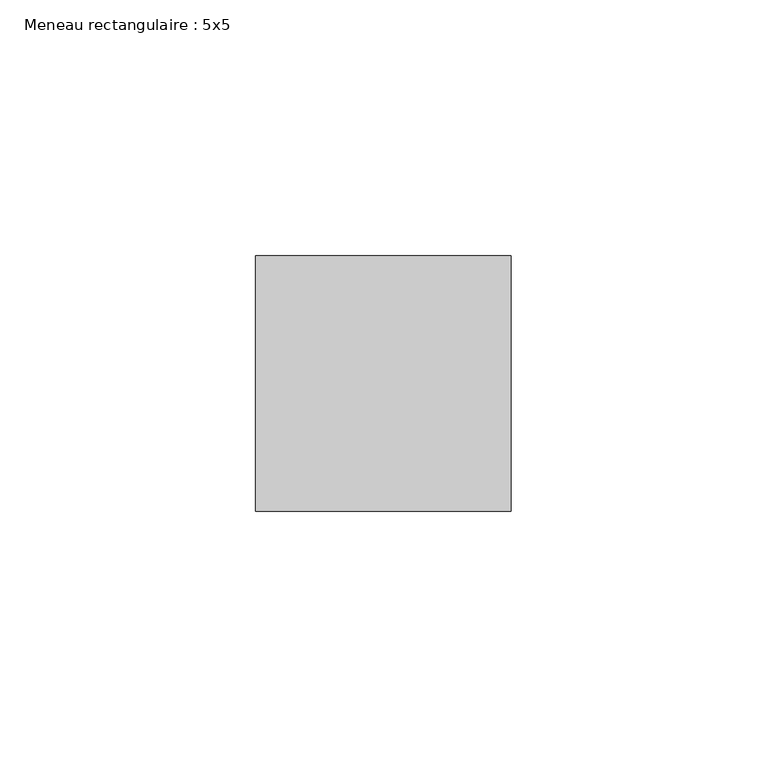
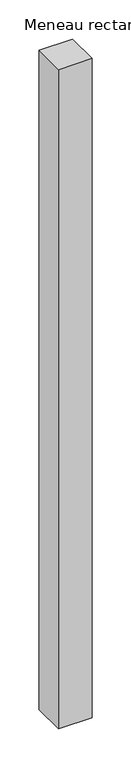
"""IFC4 building model written with IfcOpenShell, lengths in millimetres: member geometry, Meneau rectangulaire : 5x5."""

import ifcopenshell
import ifcopenshell.guid

model = None  # the IFC model being written
_history = None  # IfcOwnerHistory: only IFC2X3 demands one
_inside = {}  # id of a spatial element -> (the spatial element, [elements in it])
_under = {}  # id of a project, library or spatial element -> (it, [spatial elements below it])
_declared = {}  # id of a project -> (the project, [libraries it declares])
_typed = {}  # id of a type object -> (the type object, [elements of that type])
_made_of = {}  # id of a material, layer set ... -> (it, [elements and type objects made of it])


def new_model(schema):
    """Start an empty IFC model of exactly this schema.

    Asked for "IFC4X3", IfcOpenShell would pick the latest addendum, in which some entities
    have other attributes; the version numbers below select the first issue.
    IFC2X3 requires an IfcOwnerHistory on every rooted entity: one is made here for all.
    """
    global model, _history
    if schema == "IFC4X3":
        model = ifcopenshell.file(schema_version=(4, 3, 0, 0))
    else:
        model = ifcopenshell.file(schema=schema)
    _inside.clear()
    _under.clear()
    _declared.clear()
    _typed.clear()
    _made_of.clear()
    _history = None
    if model.schema == "IFC2X3":
        org = make("IfcOrganization", Name="unknown")
        user = make(
            "IfcPersonAndOrganization",
            ThePerson=make("IfcPerson", FamilyName="unknown"),
            TheOrganization=org,
        )
        app = make(
            "IfcApplication",
            ApplicationDeveloper=org,
            Version="unknown",
            ApplicationFullName="unknown",
            ApplicationIdentifier="unknown",
        )
        _history = make(
            "IfcOwnerHistory",
            OwningUser=user,
            OwningApplication=app,
            ChangeAction="ADDED",
            CreationDate=0,
        )
    return model


def make(cls, **values):
    """One entity of the class cls with the attributes given. An attribute that is None is left unset."""
    return model.create_entity(
        cls, **{name: value for name, value in values.items() if value is not None}
    )


def rooted(cls, **values):
    """An entity with a GlobalId (a new one), such as an element, a storey or a relation."""
    return make(cls, GlobalId=ifcopenshell.guid.new(), OwnerHistory=_history, **values)


def si_unit(unit_type, name, prefix=None):
    """IfcSIUnit, for example si_unit("LENGTHUNIT", "METRE", prefix="MILLI")."""
    return make("IfcSIUnit", UnitType=unit_type, Prefix=prefix, Name=name)


def assignment(units):
    """IfcUnitAssignment: the units of a project."""
    return None if units is None else make("IfcUnitAssignment", Units=units)


def point(xyz):
    """IfcCartesianPoint."""
    return None if xyz is None else make("IfcCartesianPoint", Coordinates=xyz)


def direction(xyz):
    """IfcDirection."""
    return None if xyz is None else make("IfcDirection", DirectionRatios=xyz)


def frame(location, z_axis=None, x_axis=None):
    """IfcAxis2Placement3D, a coordinate frame: its origin and axes. An axis left out is left unset."""
    return make(
        "IfcAxis2Placement3D",
        Location=point(location),
        Axis=direction(z_axis),
        RefDirection=direction(x_axis),
    )


def origin():
    """The frame at (0, 0, 0) with its axes left unset."""
    return frame((0.0, 0.0, 0.0))


def place(relative_to, where):
    """IfcLocalPlacement: puts the frame where relative to a parent placement (None: the world)."""
    return make(
        "IfcLocalPlacement", PlacementRelTo=relative_to, RelativePlacement=where
    )


def context(
    kind, dimensions, precision=None, world=None, true_north=None, identifier=None
):
    """IfcGeometricRepresentationContext, for example the 3D "Model" context."""
    return make(
        "IfcGeometricRepresentationContext",
        ContextIdentifier=identifier,
        ContextType=kind,
        CoordinateSpaceDimension=dimensions,
        Precision=precision,
        WorldCoordinateSystem=world,
        TrueNorth=true_north,
    )


def project(units=None, contexts=None):
    """IfcProject with its units and contexts."""
    return rooted(
        "IfcProject",
        Name="project",
        RepresentationContexts=contexts,
        UnitsInContext=assignment(units),
    )


def spatial(cls, under=None, at=None, **own):
    """A site, building, storey or space (cls), placed at a placement, below another one or the project."""
    s = rooted(cls, ObjectPlacement=at, **own)
    if under is not None:
        _under.setdefault(under.id(), (under, []))[1].append(s)
    return s


def polyline(points):
    """IfcPolyline through the points."""
    return make("IfcPolyline", Points=[point(p) for p in points])


def outline(outer, holes=None, kind="AREA"):
    """IfcArbitraryClosedProfileDef: a profile drawn as a closed curve; with holes, ...WithVoids."""
    if holes is None:
        return make("IfcArbitraryClosedProfileDef", ProfileType=kind, OuterCurve=outer)
    return make(
        "IfcArbitraryProfileDefWithVoids",
        ProfileType=kind,
        OuterCurve=outer,
        InnerCurves=holes,
    )


def extrude(swept, where, along, depth):
    """IfcExtrudedAreaSolid: the profile swept, set in the frame where, extruded along a direction by depth."""
    return make(
        "IfcExtrudedAreaSolid",
        SweptArea=swept,
        Position=where,
        ExtrudedDirection=direction(along),
        Depth=depth,
    )


def shape(context_of_items, identifier, shape_type, items):
    """IfcShapeRepresentation: the items that make up one representation, for example the "Body"."""
    return make(
        "IfcShapeRepresentation",
        ContextOfItems=context_of_items,
        RepresentationIdentifier=identifier,
        RepresentationType=shape_type,
        Items=items,
    )


def source(mapping_origin, context_of_items, identifier, shape_type, items):
    """IfcRepresentationMap: a shape defined once, which mapped items show again and again."""
    return make(
        "IfcRepresentationMap",
        MappingOrigin=mapping_origin,
        MappedRepresentation=shape(context_of_items, identifier, shape_type, items),
    )


def transform(
    local_origin,
    x_axis=None,
    y_axis=None,
    z_axis=None,
    scale=None,
    scale2=None,
    scale3=None,
    uniform=True,
):
    """IfcCartesianTransformationOperator3D, or its non-uniform kind. x_axis, y_axis, z_axis: its Axis1, 2, 3."""
    if uniform:
        return make(
            "IfcCartesianTransformationOperator3D",
            Axis1=direction(x_axis),
            Axis2=direction(y_axis),
            LocalOrigin=point(local_origin),
            Scale=scale,
            Axis3=direction(z_axis),
        )
    return make(
        "IfcCartesianTransformationOperator3DnonUniform",
        Axis1=direction(x_axis),
        Axis2=direction(y_axis),
        LocalOrigin=point(local_origin),
        Scale=scale,
        Axis3=direction(z_axis),
        Scale2=scale2,
        Scale3=scale3,
    )


def mapped(mapping_source, mapping_target):
    """IfcMappedItem: shows the shape of a source again, moved by a transform."""
    return make(
        "IfcMappedItem", MappingSource=mapping_source, MappingTarget=mapping_target
    )


def made_of(thing, what):
    """Note that an element or type object is made of a material, layer set ...; save() writes the relation."""
    if what is not None:
        _made_of.setdefault(what.id(), (what, []))[1].append(thing)
    return thing


def element(
    cls,
    number,
    at=None,
    inside=None,
    cuts=None,
    type_object=None,
    material=None,
    context=None,
    identifier="Body",
    shape_type=None,
    held_by="IfcProductDefinitionShape",
    body=None,
    shapes=None,
    **own,
):
    """One element of the class cls, such as IfcWall. Its Tag is "e" and its number.

    at: its placement. inside: the storey or other place that contains it. cuts: it is an
    opening in that element (IfcRelVoidsElement). A single representation is given by context,
    identifier, shape_type and body (its items); several are given by shapes. held_by: the class
    of the entity that holds the representations. save() writes the other relations.
    """
    e = rooted(cls, Tag="e%d" % number, ObjectPlacement=at, **own)
    if body is not None:
        shapes = [shape(context, identifier, shape_type, body)]
    if shapes is not None:
        e.Representation = make(held_by, Representations=shapes)
    if inside is not None:
        _inside.setdefault(inside.id(), (inside, []))[1].append(e)
    if cuts is not None:
        rooted(
            "IfcRelVoidsElement", RelatingBuildingElement=cuts, RelatedOpeningElement=e
        )
    if type_object is not None:
        _typed.setdefault(type_object.id(), (type_object, []))[1].append(e)
    return made_of(e, material)


def aggregate(whole, parts):
    """IfcRelAggregates: a whole, such as a stair, and the parts it consists of."""
    return rooted("IfcRelAggregates", RelatingObject=whole, RelatedObjects=parts)


def save(model, path):
    """Write the relations noted so far, then the file.

    IfcRelAggregates (storeys below a building ...), IfcRelContainedInSpatialStructure (elements
    in a storey), IfcRelDefinesByType, IfcRelAssociatesMaterial and IfcRelDeclares: one each for
    every whole, place, type object, material and project.
    """
    for whole, parts in _under.values():
        aggregate(whole, parts)
    for where, things in _inside.values():
        rooted(
            "IfcRelContainedInSpatialStructure",
            RelatedElements=things,
            RelatingStructure=where,
        )
    for kind, things in _typed.values():
        rooted("IfcRelDefinesByType", RelatedObjects=things, RelatingType=kind)
    for what, things in _made_of.values():
        rooted("IfcRelAssociatesMaterial", RelatedObjects=things, RelatingMaterial=what)
    for by, libraries in _declared.values():
        rooted("IfcRelDeclares", RelatingContext=by, RelatedDefinitions=libraries)
    model.write(path)


def meneau_rectangulaire_5x5_a619ddaf(model_context):
    return source(origin(), model_context, "Body", "SweptSolid", [
        extrude(outline(polyline([(0.0, 25.0), (0.0, -25.0), (-50.0, -25.0), (-50.0, 25.0), (0.0, 25.0)])), frame((0.0, 0.0, -1031.9722773), z_axis=(0.0, 0.0, 1.0), x_axis=(1.0, 0.0, 0.0)), (0.0, 0.0, 1.0), 1031.9722773),
    ])


if __name__ == "__main__":
    model = new_model("IFC4")
    model_context = context("Model", 3, world=origin())
    ifc_project = project(units=[si_unit("LENGTHUNIT", "METRE", prefix="MILLI")], contexts=[model_context])
    site = spatial("IfcSite", under=ifc_project)
    building = spatial("IfcBuilding", under=site)
    placement = place(None, origin())
    meneau_rectangulaire_5x5_shape = meneau_rectangulaire_5x5_a619ddaf(model_context)
    element("IfcMember", 1, ObjectType="Meneau rectangulaire : 5x5", at=placement, inside=building, context=model_context, shape_type="MappedRepresentation", body=[
        mapped(meneau_rectangulaire_5x5_shape, transform((0.0, 0.0, 0.0), x_axis=(1.0, 0.0, 0.0), y_axis=(0.0, 1.0, 0.0), z_axis=(0.0, 0.0, 1.0))),
    ])
    save(model, "model.ifc")
